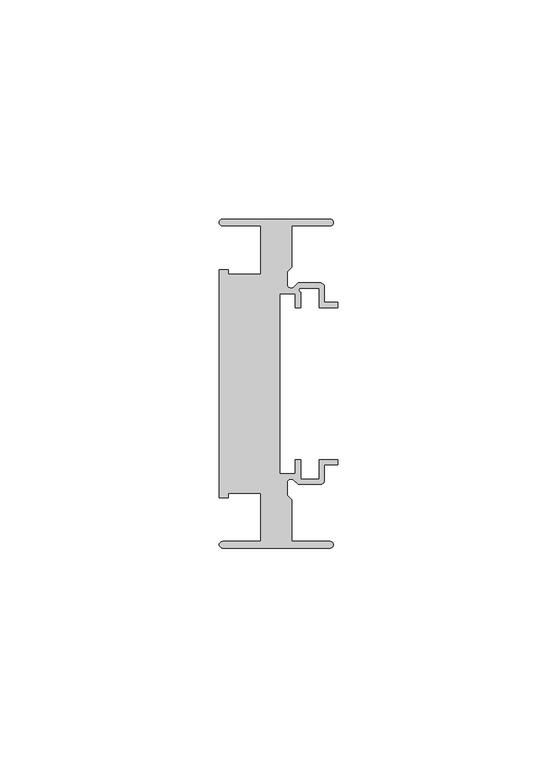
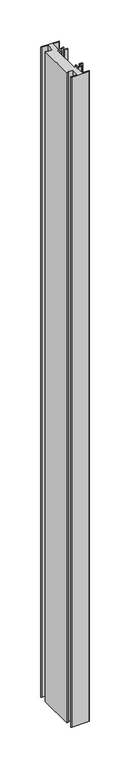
"""IFC4 building model written with IfcOpenShell, lengths in millimetres: member geometry, Прямоугольный импост : 7-AMG-2-Профиль 26Х75 Верх П."""

from ifc_helpers import new_model, si_unit, point, frame, frame_2d, origin, place, context, project, spatial, polyline, circle_curve, trimmed, segment, composite_curve, outline, extrude, source, transform, mapped, element, save


def member_f39f7cea(model_context):
    return source(origin(), model_context, "Body", "SweptSolid", [
        extrude(outline(composite_curve([segment(polyline([(-1.7, -37.5), (-26.25, -37.5)]), True, "CONTINUOUS"), segment(trimmed(circle_curve(frame_2d((-26.25, -36.75)), 0.75), [point((-26.25, -37.5))], [point((-26.25, -36.0))], False, "CARTESIAN"), True, "CONTINUOUS"), segment(polyline([(-26.25, -36.0), (-17.5, -36.0), (-17.5, -25.0), (-24.9359877, -25.0), (-24.9359877, -26.0), (-27.0, -26.0), (-27.0, 26.0), (-24.9359877, 26.0), (-24.9359877, 25.0), (-17.5, 25.0), (-17.5, 36.0), (-26.25, 36.0)]), True, "CONTINUOUS"), segment(trimmed(circle_curve(frame_2d((-26.25, 36.75)), 0.75), [point((-26.25, 36.0))], [point((-26.25, 37.5))], False, "CARTESIAN"), True, "CONTINUOUS"), segment(polyline([(-26.25, 37.5), (-1.7, 37.5)]), True, "CONTINUOUS"), segment(trimmed(circle_curve(frame_2d((-1.7, 36.75)), 0.75), [point((-1.7, 37.5))], [point((-1.7, 36.0))], False, "CARTESIAN"), True, "CONTINUOUS"), segment(polyline([(-1.7, 36.0), (-10.5, 36.0), (-10.5, 26.5029437), (-11.5, 25.5029437), (-11.5, 22.6727922)]), True, "CONTINUOUS"), segment(trimmed(circle_curve(frame_2d((-10.6, 22.6727922)), 0.9), [point((-11.5, 22.6727922))], [point((-9.9636039, 22.0363961))], True, "CARTESIAN"), True, "CONTINUOUS"), segment(polyline([(-9.9636039, 22.0363961), (-9.0, 23.0), (-4.0, 23.0)]), True, "CONTINUOUS"), segment(trimmed(circle_curve(frame_2d((-4.0, 22.0)), 1.0), [point((-4.0, 23.0))], [point((-3.0, 22.0))], False, "CARTESIAN"), True, "CONTINUOUS"), segment(polyline([(-3.0, 22.0), (-3.0, 18.55), (0.0, 18.55), (0.0, 17.35), (-4.2, 17.35), (-4.2, 21.8), (-8.5029437, 21.8)]), True, "CONTINUOUS"), segment(trimmed(circle_curve(frame_2d((-8.3343131, 21.3314262)), 0.4979937), [point((-8.5029437, 21.8))], [point((-8.45, 20.8470563))], True, "CARTESIAN"), True, "CONTINUOUS"), segment(polyline([(-8.45, 20.8470563), (-8.45, 17.35), (-9.65, 17.35), (-9.65, 20.55), (-13.15, 20.55), (-13.15, -20.55), (-9.65, -20.55), (-9.65, -17.35), (-8.45, -17.35), (-8.45, -21.8), (-4.2, -21.8), (-4.2, -17.35), (0.0, -17.35), (0.0, -18.55), (-3.0, -18.55), (-3.0, -22.0)]), True, "CONTINUOUS"), segment(trimmed(circle_curve(frame_2d((-4.0, -22.0)), 1.0), [point((-3.0, -22.0))], [point((-4.0, -23.0))], False, "CARTESIAN"), True, "CONTINUOUS"), segment(polyline([(-4.0, -23.0), (-9.0, -23.0), (-9.9636039, -22.0363961)]), True, "CONTINUOUS"), segment(trimmed(circle_curve(frame_2d((-10.6, -22.6727922)), 0.9), [point((-9.9636039, -22.0363961))], [point((-11.5, -22.6727922))], True, "CARTESIAN"), True, "CONTINUOUS"), segment(polyline([(-11.5, -22.6727922), (-11.5, -25.5029437), (-10.5, -26.5029437), (-10.5, -36.0), (-1.7, -36.0)]), True, "CONTINUOUS"), segment(trimmed(circle_curve(frame_2d((-1.7, -36.75)), 0.75), [point((-1.7, -36.0))], [point((-1.7, -37.5))], False, "CARTESIAN"), True, "CONTINUOUS")], self_intersect=False)), frame((0.0, 0.0, -974.5011211), z_axis=(0.0, 0.0, 1.0), x_axis=(1.0, 0.0, 0.0)), (0.0, 0.0, 1.0), 974.5011211),
    ])


if __name__ == "__main__":
    model = new_model("IFC4")
    model_context = context("Model", 3, world=origin())
    ifc_project = project(units=[si_unit("LENGTHUNIT", "METRE", prefix="MILLI")], contexts=[model_context])
    site = spatial("IfcSite", under=ifc_project)
    building = spatial("IfcBuilding", under=site)
    placement = place(None, origin())
    member_shape = member_f39f7cea(model_context)
    element("IfcMember", 1, ObjectType="Прямоугольный импост : 7-AMG-2-Профиль 26Х75 Верх П", at=placement, inside=building, context=model_context, shape_type="MappedRepresentation", body=[
        mapped(member_shape, transform((0.0, 0.0, 0.0), x_axis=(1.0, 0.0, 0.0), y_axis=(0.0, 1.0, 0.0), z_axis=(0.0, 0.0, 1.0))),
    ])
    save(model, "model.ifc")
